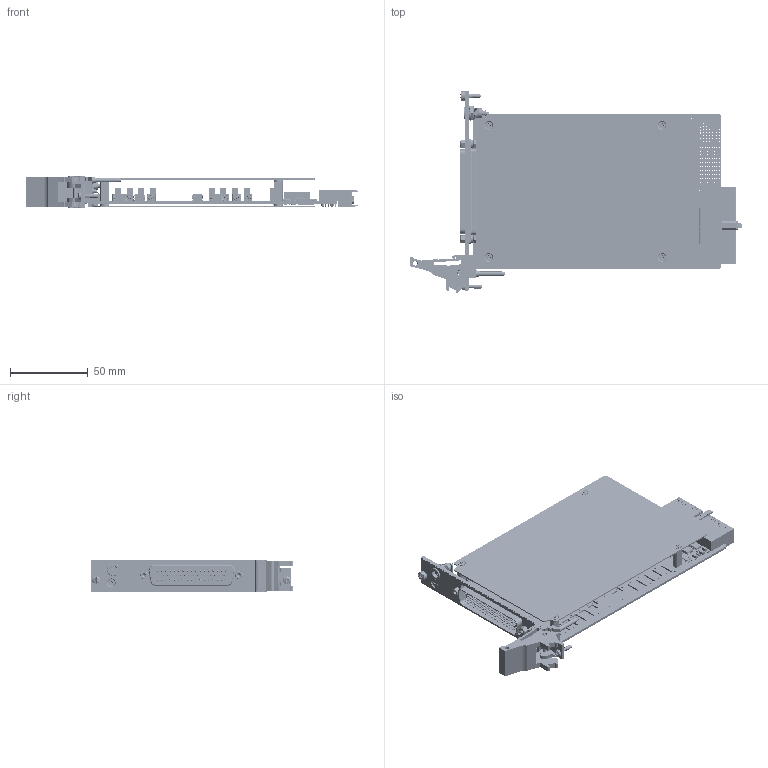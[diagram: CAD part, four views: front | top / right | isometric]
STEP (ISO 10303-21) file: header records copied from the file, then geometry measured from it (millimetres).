
FILE_DESCRIPTION (( 'STEP AP214' ), '1' );
FILE_NAME ('40-321-120-HI PXI High Voltage Multiplexer Dual 4-Channel 2-Pole.step', '2023-12-20T15:39:04', ( '' ), ( '' ), 'SwSTEP 2.0', 'SolidWorks 2023', '' );
FILE_SCHEMA (( 'AUTOMOTIVE_DESIGN' ));
Length unit declared in the file: millimetre
Products named in the file (76): C-CN-1587 2x2 Interlock Connector Socket_3mm Panel; C-CP-239  Power Line Filter; C-CN-107-PIN; C-IC-458 LDO VOLTAGE REGULATOR 1.2V SOT; C-CP-034; L-FX-165 PXI Handle Label; C-RS-256 Res 100K (0603) 1.16W 1% 100pp SMT; C-CN-1107 2x8 Way Header ST F_LEAD STYLE1PLATINGLPOSITIONS8ROWD; C-RS-190 Res 0R0 SIZE 0603 SMT; C-IC-369 FPGA 17000 Cells 65nm Technology 1.2V 256-Pin FTBGA; C-IC-546 24 BIT BUS SWITCH 56PIN TVSOP; C-CN-355 Compact pci connector 3_Render; C-CN-073-SPRING WASHER; C-FX-165 Handle Finger; C-CP-175 CAP 22uF 1206 25V X5R 10%; C-CN-107-BODY; C-CN-073 Screwlock 8mm Screw Lenght_1.9mm Space; 40-321-120-HI PXI High Voltage Multiplexer Dual 4-Channel 2-Pole; C-RS-148 Res 1K 0603 1-16W 1% 100PPM; C-SC-137 TVS DIODE ARRAY; C-FX-466 Custom 14mm x 6mm DIA XM.25 Pillar; C-BP-015 PXI 3U x 1 Slot Blank Panel; C-RS-521 Res 120R (0603) 1-16W 1% 100pp; C-RS-152 Res 10K 0603 1-16W 1% 300PPM; C-FX-101 Screw, M2.5 x 6, Pan Hd, Pozi, Steel, BZP; C-FX-165 Handle Pin; C-PC-1406 1kV Family Insulating Cover; C-CP-130 CAP 1uF CERAMIC SMT 0603; C-CP-099 CAP 0.1uF 16V 0402 SMT; C-CN-1071; L-FP-1228-# 1 SLT 1x50W D Front Panel with Interlock Label; A-PC-1218-120 High Voltage Multiplexer Dual 4-Channel 2-Pole; C-SC-146 Dual Transistor SOT-14; C-PC-1430 Interlock Connector Breakout Board; C-CN-073 WASHER plain; C-FX-1300 PCB Shield Washer; C-FP-1228 1 SLT 1x50W D Front Panel with Interlock_Výchozí; C-IC-489 F-RAM Semiconductor Serial-I2C FRAM Memory 512kbit 2-3.6 V 8-Pin SOIC; A-FP-1228-L1 1 SLT 1x50W D Front Panel with Interlock Assembly; C-IC-310 SOT353 SD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
Assembly tree (294 placements, depth 5):
  40-321-120-HI PXI High Voltage Multiplexer Dual 4-Channel 2-Pole
    A-PC-1218-120 High Voltage Multiplexer Dual 4-Channel 2-Pole
      A-PC-1218-120-# High Voltage Multiplexer Dual 4-Channel 2-Pole
        C-PC-1218 1kV 2-Pole MUX Mother
        C-CN-1071
          C-CN-107-BODY
          C-CN-107-PIN  x8
        C-CN-355 Compact pci connector 3_Render
        C-CN-1107 2x8 Way Header ST F_LEAD STYLE1PLATINGLPOSITIONS8ROWD
        C-CN-1609 1x4-Way PICBLADE ST M Header
        C-IC-441 1kV Hex Digital Isolator  x2
        C-RS-190 Res 0R0 SIZE 0603 SMT  x4
        C-RS-256 Res 100K (0603) 1.16W 1% 100pp SMT
        C-CP-099 CAP 0.1uF 16V 0402 SMT  x44
        C-IC-489 F-RAM Semiconductor Serial-I2C FRAM Memory 512kbit 2-3.6 V 8-Pin SOIC
        C-CP-034  x21
        C-IC-310 SOT353 SD
        C-IC-158 Buffer 3-State SOT-23 5-Pin
        C-IC-548 1-Bit Flip-Flop 8-Pin SM8
        C-RS-152 Res 10K 0603 1-16W 1% 300PPM  x4
        C-RS-1487 RES 100k 0.1W 25PPM 0603
        C-RS-147 Res 100R 0603 1-16W 1% 100PPM  x2
        C-SC-137 TVS DIODE ARRAY
        C-CP-033 Capacitor 10nF SMT 0603
        C-RL-356 High Voltage Relay  x9
        C-IC-426 32-Flash Memory Standard Serial NOR 32Mbit SPI WSOIC-8
        C-IC-442 VSSOP 8PIN SD
        C-IC-425 SOICN 8PIN SD
        C-IC-458 LDO VOLTAGE REGULATOR 1.2V SOT
        C-IC-535 16-Channel Relay Driver  x2
        C-IC-546 24 BIT BUS SWITCH 56PIN TVSOP  x2
        C-RS-148 Res 1K 0603 1-16W 1% 100PPM  x2
        C-RS-659 RES NW 4K7 4RES 8PINS SMT1206  x4
        C-RS-756 RES 0R 0603  200PPM  x2
        C-RS-521 Res 120R (0603) 1-16W 1% 100pp
        C-SC-146 Dual Transistor SOT-14  x2
        C-MS-1047 BEAD 600R 0402 0.5A 0R34 25%  x24
        C-MS-1048 5-Hole Ferrite Bead  x20
        C-MS-803 BEAD 120R 0603 2A 0R05 25%  x2
        C-CP-239  Power Line Filter  x3
        C-CP-124 CAP 10nF CERAMIC SMT 0402  x53
        C-CP-175 CAP 22uF 1206 25V X5R 10%  x2
        C-CP-130 CAP 1uF CERAMIC SMT 0603  x2
        C-CP-139 CAP 4.7UF 1206 16V X7R 10%  x2
        C-CP-141 CAP 10UF 1206 35V X5R 10%  x7
        C-IC-369 FPGA 17000 Cells 65nm Technology 1.2V 256-Pin FTBGA
    A-FP-1228-L1 1 SLT 1x50W D Front Panel with Interlock Assembly
      A-FP-1228 1 SLT 1x50W D Front Panel with Interlock Assembly
        C-FP-1228 1 SLT 1x50W D Front Panel with Interlock_Výchozí
          C-BP-015 PXI 3U x 1 Slot Blank Panel
        L-FP-1228 1 SLT 1x50W D Front Panel with Interlock Label
          L-FP-1228-# 1 SLT 1x50W D Front Panel with Interlock Label
      C-FX-165 CPCI Ejector Handle
        C-FX-165 Handle Body
        C-FX-165 Handle Finger
        C-FX-165 Handle Pin
        P-FX-017 M2,5 Collar Posi-Slot Screw
        L-FX-165 PXI Handle Label
      C-CN-1587-L1 2x2 Interlock Connector Socket + PCB Assembly.SLDPRT
        C-CN-1587 2x2 Interlock Connector Socket_3mm Panel
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Bounding box: 213.67 x 129.63 x 20 mm (x, y, z)
Volume: 81460.3 mm3; surface area: 137528.2 mm2
Topology: 286 solids, 338 shells, 23323 faces, 59083 edges, 37424 vertices
Faces by surface type: plane 14248, cylinder 6229, torus 1589, bspline 611, cone 376, sphere 270
Entity records: 551254 total; most frequent: CARTESIAN_POINT 86656, DIRECTION 70143, ORIENTED_EDGE 68848, EDGE_CURVE 34426, VECTOR 24011, LINE 24011, AXIS2_PLACEMENT_3D 23066, VERTEX_POINT 22035
